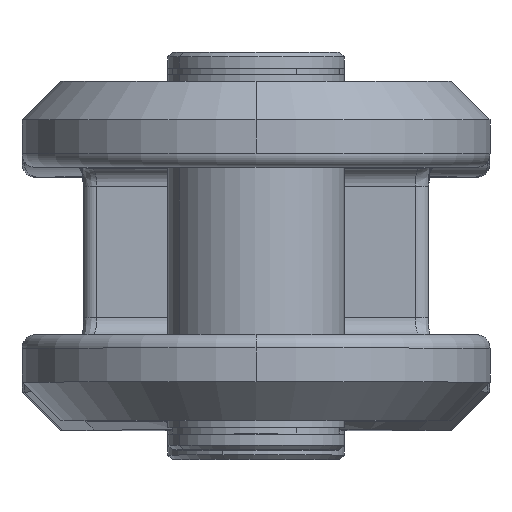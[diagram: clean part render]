
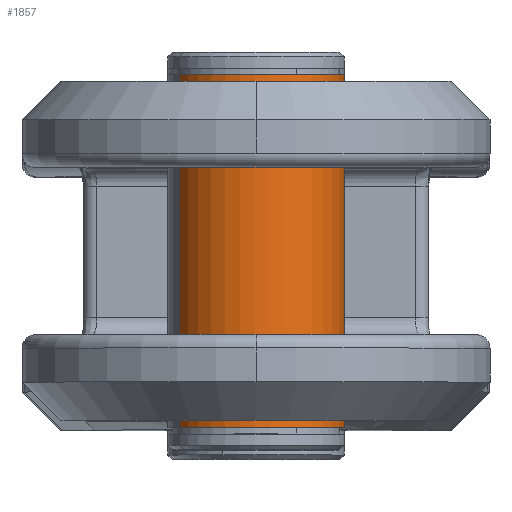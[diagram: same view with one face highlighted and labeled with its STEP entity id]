
A CAD part, top view. The second image highlights one B-rep face of the part: STEP entity #1857.
In plain terms, the highlighted cylindrical face has radius 39 mm (diameter 78 mm), a partial arc.
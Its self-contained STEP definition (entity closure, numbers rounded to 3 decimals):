
#45 = EDGE_LOOP ( 'NONE', ( #6055, #104, #6690, #736 ) ) ;
#104 = ORIENTED_EDGE ( 'NONE', *, *, #3777, .T. ) ;
#172 = CARTESIAN_POINT ( 'NONE',  ( 0., 0., -39. ) ) ;
#207 = CIRCLE ( 'NONE', #6582, 39. ) ;
#369 = CARTESIAN_POINT ( 'NONE',  ( 9.9, 0., 0. ) ) ;
#695 = DIRECTION ( 'NONE',  ( -1., 0., 0. ) ) ;
#736 = ORIENTED_EDGE ( 'NONE', *, *, #6666, .F. ) ;
#901 = DIRECTION ( 'NONE',  ( 0., -1., 0. ) ) ;
#1042 = VECTOR ( 'NONE', #5678, 1000. ) ;
#1351 = CARTESIAN_POINT ( 'NONE',  ( 0., 0., 39. ) ) ;
#1406 = VERTEX_POINT ( 'NONE', #2394 ) ;
#1857 = ADVANCED_FACE ( 'NONE', ( #6640 ), #5005, .T. ) ;
#1947 = DIRECTION ( 'NONE',  ( 0., 0., 1. ) ) ;
#2306 = DIRECTION ( 'NONE',  ( -1., 0., 0. ) ) ;
#2394 = CARTESIAN_POINT ( 'NONE',  ( 9.9, 0., -39. ) ) ;
#2455 = VERTEX_POINT ( 'NONE', #3091 ) ;
#2904 = CIRCLE ( 'NONE', #5858, 39. ) ;
#3091 = CARTESIAN_POINT ( 'NONE',  ( 9.9, 0., 39. ) ) ;
#3775 = EDGE_CURVE ( 'NONE', #6249, #1406, #4327, .T. ) ;
#3777 = EDGE_CURVE ( 'NONE', #6249, #5072, #2904, .T. ) ;
#4094 = DIRECTION ( 'NONE',  ( -1., 0., 0. ) ) ;
#4176 = CARTESIAN_POINT ( 'NONE',  ( 165.9, 0., 39. ) ) ;
#4327 = LINE ( 'NONE', #172, #5607 ) ;
#4724 = CARTESIAN_POINT ( 'NONE',  ( 165.9, 0., -39. ) ) ;
#5005 = CYLINDRICAL_SURFACE ( 'NONE', #6108, 39. ) ;
#5072 = VERTEX_POINT ( 'NONE', #4176 ) ;
#5304 = LINE ( 'NONE', #1351, #1042 ) ;
#5460 = EDGE_CURVE ( 'NONE', #5072, #2455, #5304, .T. ) ;
#5526 = CARTESIAN_POINT ( 'NONE',  ( 165.9, 0., 0. ) ) ;
#5607 = VECTOR ( 'NONE', #695, 1000. ) ;
#5678 = DIRECTION ( 'NONE',  ( -1., 0., 0. ) ) ;
#5858 = AXIS2_PLACEMENT_3D ( 'NONE', #5526, #2306, #6074 ) ;
#6055 = ORIENTED_EDGE ( 'NONE', *, *, #3775, .F. ) ;
#6074 = DIRECTION ( 'NONE',  ( 0., -1., 0. ) ) ;
#6108 = AXIS2_PLACEMENT_3D ( 'NONE', #6826, #6848, #1947 ) ;
#6249 = VERTEX_POINT ( 'NONE', #4724 ) ;
#6582 = AXIS2_PLACEMENT_3D ( 'NONE', #369, #4094, #901 ) ;
#6640 = FACE_OUTER_BOUND ( 'NONE', #45, .T. ) ;
#6666 = EDGE_CURVE ( 'NONE', #1406, #2455, #207, .T. ) ;
#6690 = ORIENTED_EDGE ( 'NONE', *, *, #5460, .T. ) ;
#6826 = CARTESIAN_POINT ( 'NONE',  ( 0., 0., 0. ) ) ;
#6848 = DIRECTION ( 'NONE',  ( -1., 0., 0. ) ) ;
